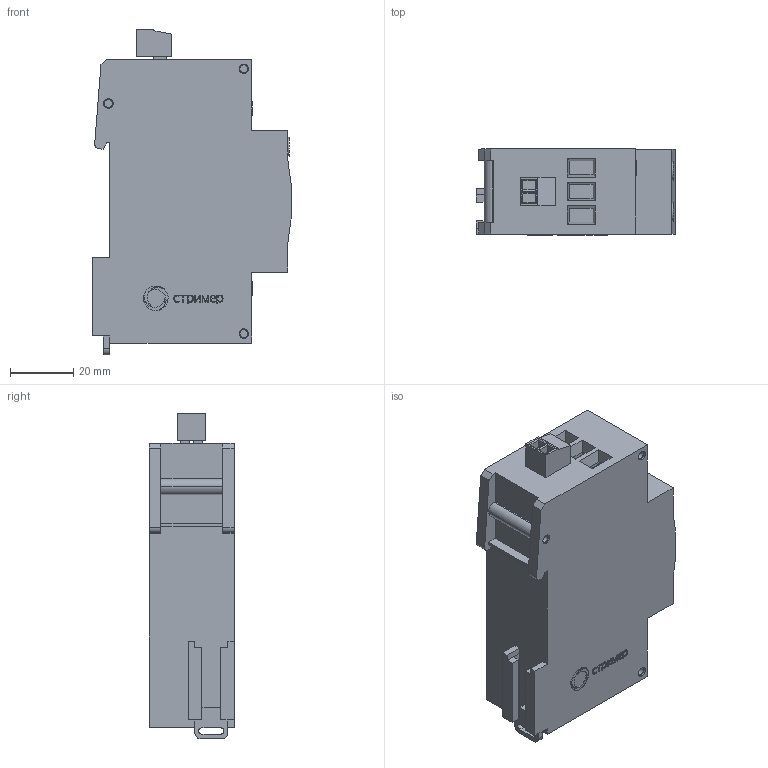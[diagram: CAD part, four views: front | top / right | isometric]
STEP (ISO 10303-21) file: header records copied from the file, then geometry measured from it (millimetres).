
FILE_DESCRIPTION(('TFLEX Exchange Step'),'2;1');
FILE_NAME('X2\041004400442\X0\.131.102.stp', '2022-07-15T15:47:05+03:00',('Pavel Oborin'),('Unknown organisation'),'TFLEX Exchange 2019.2','T-FLEX CAD','Unknown authorisation');
FILE_SCHEMA( ('AUTOMOTIVE_DESIGN { 1 0 10303 214 1 1 1 1 }') );
Length unit declared in the file: millimetre
Products named in the file (8): 0; Сигнализация маленькая:2; Сигнализация маленькая; Тело_8 - Линейный массив_1:3; Тело_8 - Линейный массив_1:2; Тело_8 - Линейный массив_1:1; <Винты нормальные>Винт ГОСТ Р ИСО 1207:3; Арт.131.102
Assembly tree (10 placements, depth 3):
  Арт.131.102
    0
    Сигнализация маленькая
      Сигнализация маленькая:2  x2
    Тело_8 - Линейный массив_1:3
    Тело_8 - Линейный массив_1:2
    Тело_8 - Линейный массив_1:1
    <Винты нормальные>Винт ГОСТ Р ИСО 1207:3  x3
Bounding box: 63.17 x 27.2 x 103.35 mm (x, y, z)
Volume: 125279.8 mm3; surface area: 23299.4 mm2
Topology: 41 solids, 42 shells, 596 faces, 1414 edges, 930 vertices
Faces by surface type: plane 365, bspline 108, cylinder 101, torus 14, cone 8
Full cylindrical faces by diameter (mm): 1.6 x2, 3 x2
Entity records: 18614 total; most frequent: CARTESIAN_POINT 6135, ORIENTED_EDGE 2640, DIRECTION 2225, EDGE_CURVE 1320, VERTEX_POINT 868, VECTOR 867, LINE 867, AXIS2_PLACEMENT_3D 679
